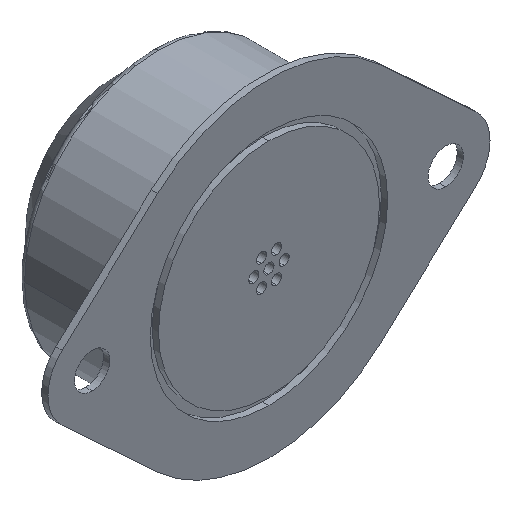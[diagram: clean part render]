
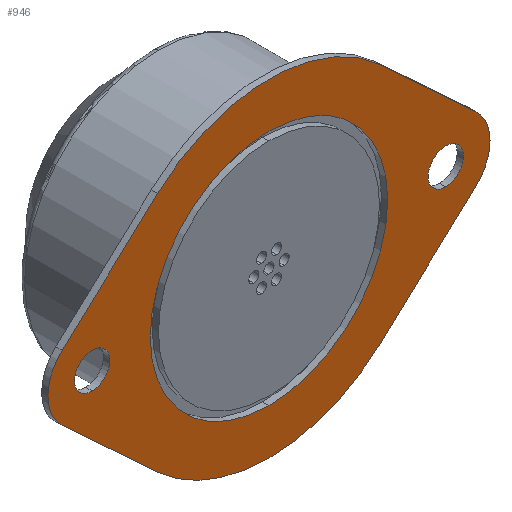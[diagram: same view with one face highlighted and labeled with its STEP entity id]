
A CAD part, isometric view. The second image highlights one B-rep face of the part: STEP entity #946.
In plain terms, the highlighted planar face has unit normal (0, -1, 0).
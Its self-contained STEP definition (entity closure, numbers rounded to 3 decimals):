
#2 = CARTESIAN_POINT ( 'NONE',  ( -28., 0., 0. ) ) ;
#3 = EDGE_CURVE ( 'NONE', #1216, #1239, #1564, .T. ) ;
#5 = DIRECTION ( 'NONE',  ( 0., 0., -1. ) ) ;
#6 = ORIENTED_EDGE ( 'NONE', *, *, #1475, .F. ) ;
#21 = CARTESIAN_POINT ( 'NONE',  ( 0., 0., -18.8 ) ) ;
#23 = VERTEX_POINT ( 'NONE', #1106 ) ;
#43 = CARTESIAN_POINT ( 'NONE',  ( -32.75, 0., 5.142 ) ) ;
#49 = CARTESIAN_POINT ( 'NONE',  ( 28., 0., 0. ) ) ;
#56 = CIRCLE ( 'NONE', #786, 26. ) ;
#58 = CARTESIAN_POINT ( 'NONE',  ( -17.643, 0., 19.098 ) ) ;
#86 = DIRECTION ( 'NONE',  ( 0., 0., -1. ) ) ;
#97 = VERTEX_POINT ( 'NONE', #264 ) ;
#98 = CARTESIAN_POINT ( 'NONE',  ( -28., 0., 0. ) ) ;
#123 = DIRECTION ( 'NONE',  ( 0., 0., -1. ) ) ;
#124 = VERTEX_POINT ( 'NONE', #133 ) ;
#133 = CARTESIAN_POINT ( 'NONE',  ( -17.643, 0., -19.098 ) ) ;
#135 = VERTEX_POINT ( 'NONE', #413 ) ;
#138 = CARTESIAN_POINT ( 'NONE',  ( 28., 0., -2.8 ) ) ;
#148 = ORIENTED_EDGE ( 'NONE', *, *, #3, .F. ) ;
#153 = VERTEX_POINT ( 'NONE', #138 ) ;
#156 = DIRECTION ( 'NONE',  ( 0., 0., -1. ) ) ;
#166 = DIRECTION ( 'NONE',  ( 0., -1., 0. ) ) ;
#203 = CIRCLE ( 'NONE', #1322, 2.8 ) ;
#207 = DIRECTION ( 'NONE',  ( 0., 0., -1. ) ) ;
#227 = FACE_BOUND ( 'NONE', #494, .T. ) ;
#229 = EDGE_CURVE ( 'NONE', #1621, #443, #889, .T. ) ;
#235 = CARTESIAN_POINT ( 'NONE',  ( 28., 0., 0. ) ) ;
#237 = EDGE_CURVE ( 'NONE', #23, #1216, #1233, .T. ) ;
#264 = CARTESIAN_POINT ( 'NONE',  ( 0., 0., -26. ) ) ;
#277 = EDGE_CURVE ( 'NONE', #1438, #651, #1589, .T. ) ;
#288 = CARTESIAN_POINT ( 'NONE',  ( 28., 0., 0. ) ) ;
#320 = CARTESIAN_POINT ( 'NONE',  ( -32.75, 0., 5.142 ) ) ;
#340 = CARTESIAN_POINT ( 'NONE',  ( 0., 0., 18.8 ) ) ;
#363 = VERTEX_POINT ( 'NONE', #21 ) ;
#371 = DIRECTION ( 'NONE',  ( 0., 0., -1. ) ) ;
#376 = DIRECTION ( 'NONE',  ( 0., 1., 0. ) ) ;
#393 = AXIS2_PLACEMENT_3D ( 'NONE', #288, #1299, #431 ) ;
#397 = CARTESIAN_POINT ( 'NONE',  ( 32.75, 0., -5.142 ) ) ;
#404 = DIRECTION ( 'NONE',  ( -0.735, 0., 0.679 ) ) ;
#410 = EDGE_LOOP ( 'NONE', ( #6, #1083, #633, #656, #1751, #826, #1324, #148, #949 ) ) ;
#413 = CARTESIAN_POINT ( 'NONE',  ( 17.643, 0., 19.098 ) ) ;
#424 = CIRCLE ( 'NONE', #1650, 26. ) ;
#431 = DIRECTION ( 'NONE',  ( 0., 0., -1. ) ) ;
#443 = VERTEX_POINT ( 'NONE', #1049 ) ;
#461 = CARTESIAN_POINT ( 'NONE',  ( 28., 0., 2.8 ) ) ;
#468 = AXIS2_PLACEMENT_3D ( 'NONE', #235, #1237, #371 ) ;
#494 = EDGE_LOOP ( 'NONE', ( #1586, #1090 ) ) ;
#507 = CARTESIAN_POINT ( 'NONE',  ( 17.643, 0., -19.098 ) ) ;
#511 = FACE_OUTER_BOUND ( 'NONE', #410, .T. ) ;
#513 = DIRECTION ( 'NONE',  ( 0., -1., 0. ) ) ;
#521 = ORIENTED_EDGE ( 'NONE', *, *, #1634, .F. ) ;
#530 = DIRECTION ( 'NONE',  ( 0., 1., 0. ) ) ;
#542 = CARTESIAN_POINT ( 'NONE',  ( -28., 0., -2.8 ) ) ;
#556 = VECTOR ( 'NONE', #1858, 1000. ) ;
#579 = AXIS2_PLACEMENT_3D ( 'NONE', #2, #1012, #156 ) ;
#589 = VERTEX_POINT ( 'NONE', #507 ) ;
#601 = EDGE_CURVE ( 'NONE', #1852, #363, #1467, .T. ) ;
#633 = ORIENTED_EDGE ( 'NONE', *, *, #985, .F. ) ;
#646 = CIRCLE ( 'NONE', #468, 2.8 ) ;
#651 = VERTEX_POINT ( 'NONE', #807 ) ;
#656 = ORIENTED_EDGE ( 'NONE', *, *, #1515, .F. ) ;
#698 = AXIS2_PLACEMENT_3D ( 'NONE', #1829, #952, #86 ) ;
#770 = AXIS2_PLACEMENT_3D ( 'NONE', #1021, #166, #1166 ) ;
#786 = AXIS2_PLACEMENT_3D ( 'NONE', #1243, #376, #1395 ) ;
#797 = CIRCLE ( 'NONE', #1045, 18.8 ) ;
#807 = CARTESIAN_POINT ( 'NONE',  ( -28., 0., 2.8 ) ) ;
#826 = ORIENTED_EDGE ( 'NONE', *, *, #828, .F. ) ;
#828 = EDGE_CURVE ( 'NONE', #135, #1621, #1765, .T. ) ;
#843 = EDGE_CURVE ( 'NONE', #153, #1826, #646, .T. ) ;
#847 = AXIS2_PLACEMENT_3D ( 'NONE', #855, #1886, #1008 ) ;
#855 = CARTESIAN_POINT ( 'NONE',  ( 0., 0., 0. ) ) ;
#861 = DIRECTION ( 'NONE',  ( 0., -1., 0. ) ) ;
#889 = CIRCLE ( 'NONE', #393, 7. ) ;
#893 = FACE_BOUND ( 'NONE', #1733, .T. ) ;
#943 = LINE ( 'NONE', #397, #556 ) ;
#946 = ADVANCED_FACE ( 'NONE', ( #893, #1683, #227, #511 ), #1397, .F. ) ;
#949 = ORIENTED_EDGE ( 'NONE', *, *, #237, .F. ) ;
#952 = DIRECTION ( 'NONE',  ( 0., -1., 0. ) ) ;
#980 = DIRECTION ( 'NONE',  ( 0., 1., 0. ) ) ;
#985 = EDGE_CURVE ( 'NONE', #589, #97, #424, .T. ) ;
#988 = VECTOR ( 'NONE', #404, 1000. ) ;
#990 = VECTOR ( 'NONE', #1384, 1000. ) ;
#1008 = DIRECTION ( 'NONE',  ( 0., 0., -1. ) ) ;
#1012 = DIRECTION ( 'NONE',  ( 0., 1., 0. ) ) ;
#1021 = CARTESIAN_POINT ( 'NONE',  ( -28., 0., 0. ) ) ;
#1045 = AXIS2_PLACEMENT_3D ( 'NONE', #1746, #861, #5 ) ;
#1049 = CARTESIAN_POINT ( 'NONE',  ( 32.75, 0., -5.142 ) ) ;
#1059 = DIRECTION ( 'NONE',  ( 0., -1., 0. ) ) ;
#1083 = ORIENTED_EDGE ( 'NONE', *, *, #1614, .F. ) ;
#1090 = ORIENTED_EDGE ( 'NONE', *, *, #1342, .F. ) ;
#1106 = CARTESIAN_POINT ( 'NONE',  ( -32.75, 0., -5.142 ) ) ;
#1151 = AXIS2_PLACEMENT_3D ( 'NONE', #98, #530, #1555 ) ;
#1162 = VECTOR ( 'NONE', #1168, 1000. ) ;
#1163 = CIRCLE ( 'NONE', #698, 2.8 ) ;
#1166 = DIRECTION ( 'NONE',  ( 0., 0., -1. ) ) ;
#1168 = DIRECTION ( 'NONE',  ( 0.735, 0., 0.679 ) ) ;
#1216 = VERTEX_POINT ( 'NONE', #43 ) ;
#1221 = EDGE_CURVE ( 'NONE', #1826, #153, #203, .T. ) ;
#1233 = CIRCLE ( 'NONE', #579, 7. ) ;
#1237 = DIRECTION ( 'NONE',  ( 0., -1., 0. ) ) ;
#1239 = VERTEX_POINT ( 'NONE', #58 ) ;
#1243 = CARTESIAN_POINT ( 'NONE',  ( 0., 0., 0. ) ) ;
#1295 = CARTESIAN_POINT ( 'NONE',  ( 32.75, 0., 5.142 ) ) ;
#1299 = DIRECTION ( 'NONE',  ( 0., 1., 0. ) ) ;
#1322 = AXIS2_PLACEMENT_3D ( 'NONE', #49, #1059, #207 ) ;
#1324 = ORIENTED_EDGE ( 'NONE', *, *, #1359, .F. ) ;
#1342 = EDGE_CURVE ( 'NONE', #651, #1438, #1163, .T. ) ;
#1359 = EDGE_CURVE ( 'NONE', #1239, #135, #56, .T. ) ;
#1384 = DIRECTION ( 'NONE',  ( 0.735, 0., -0.679 ) ) ;
#1389 = CARTESIAN_POINT ( 'NONE',  ( 0., 0., 0. ) ) ;
#1395 = DIRECTION ( 'NONE',  ( 0., 0., -1. ) ) ;
#1397 = PLANE ( 'NONE',  #1151 ) ;
#1407 = ORIENTED_EDGE ( 'NONE', *, *, #601, .F. ) ;
#1413 = CARTESIAN_POINT ( 'NONE',  ( -17.643, 0., -19.098 ) ) ;
#1425 = LINE ( 'NONE', #1413, #988 ) ;
#1429 = AXIS2_PLACEMENT_3D ( 'NONE', #1389, #513, #1536 ) ;
#1438 = VERTEX_POINT ( 'NONE', #542 ) ;
#1467 = CIRCLE ( 'NONE', #1429, 18.8 ) ;
#1475 = EDGE_CURVE ( 'NONE', #124, #23, #1425, .T. ) ;
#1515 = EDGE_CURVE ( 'NONE', #443, #589, #943, .T. ) ;
#1534 = CARTESIAN_POINT ( 'NONE',  ( 17.643, 0., 19.098 ) ) ;
#1536 = DIRECTION ( 'NONE',  ( 0., 0., -1. ) ) ;
#1555 = DIRECTION ( 'NONE',  ( 0., 0., 1. ) ) ;
#1564 = LINE ( 'NONE', #320, #1162 ) ;
#1576 = ORIENTED_EDGE ( 'NONE', *, *, #1221, .F. ) ;
#1586 = ORIENTED_EDGE ( 'NONE', *, *, #277, .F. ) ;
#1589 = CIRCLE ( 'NONE', #770, 2.8 ) ;
#1590 = CIRCLE ( 'NONE', #847, 26. ) ;
#1614 = EDGE_CURVE ( 'NONE', #97, #124, #1590, .T. ) ;
#1621 = VERTEX_POINT ( 'NONE', #1295 ) ;
#1634 = EDGE_CURVE ( 'NONE', #363, #1852, #797, .T. ) ;
#1644 = ORIENTED_EDGE ( 'NONE', *, *, #843, .F. ) ;
#1650 = AXIS2_PLACEMENT_3D ( 'NONE', #1860, #980, #123 ) ;
#1669 = EDGE_LOOP ( 'NONE', ( #1644, #1576 ) ) ;
#1683 = FACE_BOUND ( 'NONE', #1669, .T. ) ;
#1733 = EDGE_LOOP ( 'NONE', ( #521, #1407 ) ) ;
#1746 = CARTESIAN_POINT ( 'NONE',  ( 0., 0., 0. ) ) ;
#1751 = ORIENTED_EDGE ( 'NONE', *, *, #229, .F. ) ;
#1765 = LINE ( 'NONE', #1534, #990 ) ;
#1826 = VERTEX_POINT ( 'NONE', #461 ) ;
#1829 = CARTESIAN_POINT ( 'NONE',  ( -28., 0., 0. ) ) ;
#1852 = VERTEX_POINT ( 'NONE', #340 ) ;
#1858 = DIRECTION ( 'NONE',  ( -0.735, 0., -0.679 ) ) ;
#1860 = CARTESIAN_POINT ( 'NONE',  ( 0., 0., 0. ) ) ;
#1886 = DIRECTION ( 'NONE',  ( 0., 1., 0. ) ) ;
